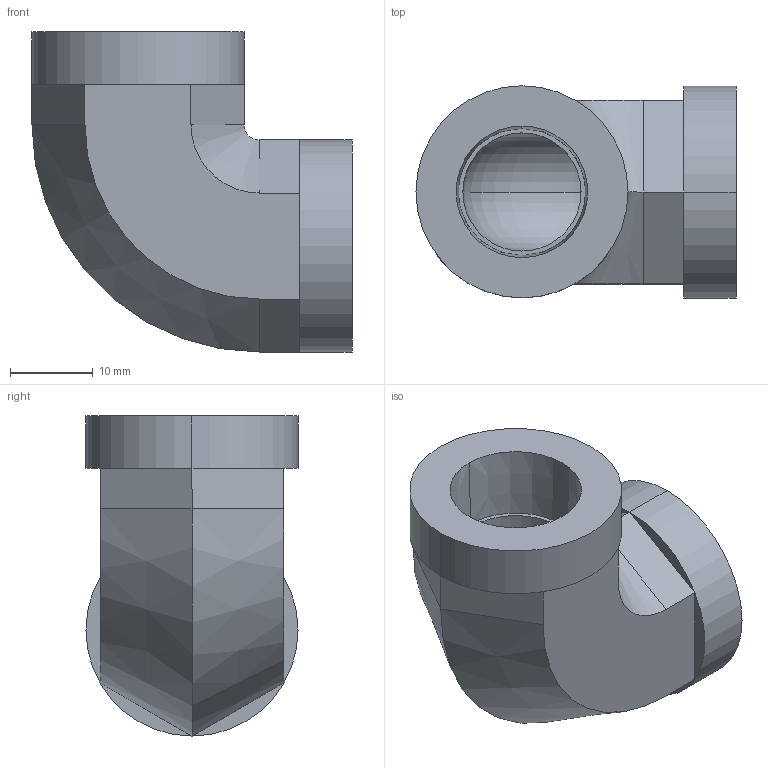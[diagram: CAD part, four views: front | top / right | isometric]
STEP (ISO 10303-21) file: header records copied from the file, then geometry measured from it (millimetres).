
FILE_DESCRIPTION((''),'2;1');
FILE_NAME('3-8_DD-S','2011-06-29T',('chad.steele'),(''),'PRO/ENGINEER BY PARAMETRIC TECHNOLOGY CORPORATION, 2010040','PRO/ENGINEER BY PARAMETRIC TECHNOLOGY CORPORATION, 2010040','');
FILE_SCHEMA(('CONFIG_CONTROL_DESIGN'));
Length unit declared in the file: inch
Products named in the file (1): 3-8_DD-S
Bounding box: 38.74 x 25.66 x 38.74 mm (x, y, z)
Volume: 12354.1 mm3; surface area: 6642.7 mm2
Topology: 1 solids, 1 shells, 44 faces, 84 edges, 44 vertices
Faces by surface type: plane 26, cylinder 8, cone 8, torus 2
Entity records: 1124 total; most frequent: DIRECTION 212, CARTESIAN_POINT 172, ORIENTED_EDGE 168, AXIS2_PLACEMENT_3D 84, EDGE_CURVE 84, EDGE_LOOP 48, VECTOR 44, LINE 44
